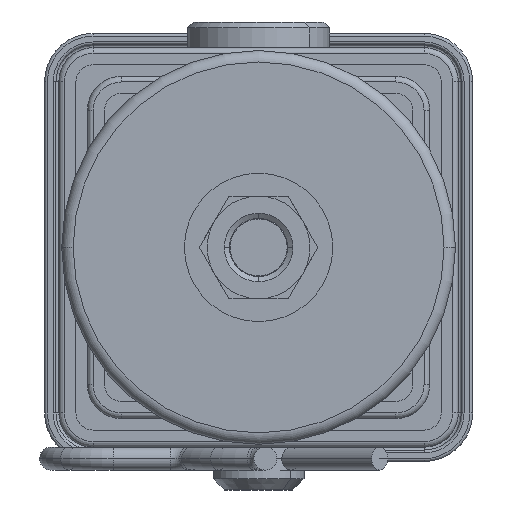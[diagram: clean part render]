
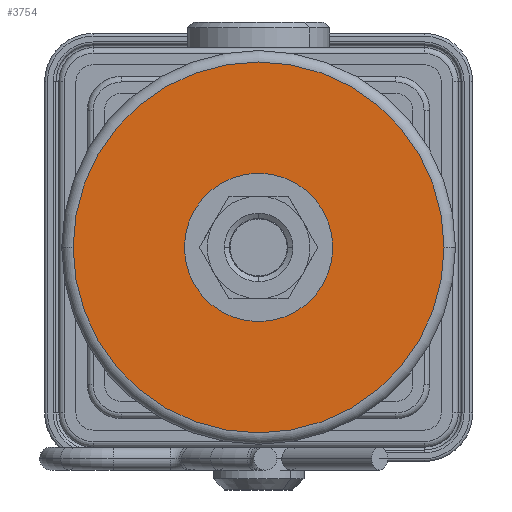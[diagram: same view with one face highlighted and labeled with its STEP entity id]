
A CAD part, front view. The second image highlights one B-rep face of the part: STEP entity #3754.
In plain terms, the highlighted planar face has unit normal (0, -1, 0).
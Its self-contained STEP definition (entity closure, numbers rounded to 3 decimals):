
#146 = FACE_OUTER_BOUND ( 'NONE', #1695, .T. ) ;
#199 = VERTEX_POINT ( 'NONE', #4738 ) ;
#485 = DIRECTION ( 'NONE',  ( 0., 0., -1. ) ) ;
#817 = DIRECTION ( 'NONE',  ( 0., 0., -1. ) ) ;
#890 = CIRCLE ( 'NONE', #7768, 32.5 ) ;
#1234 = FACE_BOUND ( 'NONE', #9202, .T. ) ;
#1695 = EDGE_LOOP ( 'NONE', ( #9395, #6928 ) ) ;
#1927 = CIRCLE ( 'NONE', #6339, 13. ) ;
#1995 = EDGE_CURVE ( 'NONE', #11370, #199, #1927, .T. ) ;
#2941 = DIRECTION ( 'NONE',  ( 0., -1., 0. ) ) ;
#3078 = EDGE_CURVE ( 'NONE', #5412, #3096, #7547, .T. ) ;
#3096 = VERTEX_POINT ( 'NONE', #9473 ) ;
#3754 = ADVANCED_FACE ( 'NONE', ( #146, #1234 ), #12746, .T. ) ;
#4604 = CARTESIAN_POINT ( 'NONE',  ( 0., -18., 0. ) ) ;
#4630 = DIRECTION ( 'NONE',  ( 0., -1., 0. ) ) ;
#4648 = EDGE_CURVE ( 'NONE', #199, #11370, #8433, .T. ) ;
#4738 = CARTESIAN_POINT ( 'NONE',  ( 0., -18., 13. ) ) ;
#4767 = CARTESIAN_POINT ( 'NONE',  ( 0., -18., -32.5 ) ) ;
#5412 = VERTEX_POINT ( 'NONE', #4767 ) ;
#5610 = DIRECTION ( 'NONE',  ( 0., 0., -1. ) ) ;
#6339 = AXIS2_PLACEMENT_3D ( 'NONE', #10643, #4630, #11631 ) ;
#6515 = DIRECTION ( 'NONE',  ( 0., -1., 0. ) ) ;
#6766 = EDGE_CURVE ( 'NONE', #3096, #5412, #890, .T. ) ;
#6838 = DIRECTION ( 'NONE',  ( 0., -1., 0. ) ) ;
#6928 = ORIENTED_EDGE ( 'NONE', *, *, #6766, .T. ) ;
#7289 = AXIS2_PLACEMENT_3D ( 'NONE', #10803, #6838, #817 ) ;
#7547 = CIRCLE ( 'NONE', #8019, 32.5 ) ;
#7768 = AXIS2_PLACEMENT_3D ( 'NONE', #8935, #2941, #9947 ) ;
#7869 = AXIS2_PLACEMENT_3D ( 'NONE', #4604, #11588, #5610 ) ;
#8019 = AXIS2_PLACEMENT_3D ( 'NONE', #12464, #6515, #485 ) ;
#8433 = CIRCLE ( 'NONE', #7869, 13. ) ;
#8935 = CARTESIAN_POINT ( 'NONE',  ( 0., -18., 0. ) ) ;
#9202 = EDGE_LOOP ( 'NONE', ( #9536, #9788 ) ) ;
#9395 = ORIENTED_EDGE ( 'NONE', *, *, #3078, .T. ) ;
#9473 = CARTESIAN_POINT ( 'NONE',  ( 0., -18., 32.5 ) ) ;
#9536 = ORIENTED_EDGE ( 'NONE', *, *, #1995, .F. ) ;
#9788 = ORIENTED_EDGE ( 'NONE', *, *, #4648, .F. ) ;
#9947 = DIRECTION ( 'NONE',  ( 0., 0., -1. ) ) ;
#10643 = CARTESIAN_POINT ( 'NONE',  ( 0., -18., 0. ) ) ;
#10803 = CARTESIAN_POINT ( 'NONE',  ( 34.5, -18., 0. ) ) ;
#11162 = CARTESIAN_POINT ( 'NONE',  ( 0., -18., -13. ) ) ;
#11370 = VERTEX_POINT ( 'NONE', #11162 ) ;
#11588 = DIRECTION ( 'NONE',  ( 0., -1., 0. ) ) ;
#11631 = DIRECTION ( 'NONE',  ( 0., 0., -1. ) ) ;
#12464 = CARTESIAN_POINT ( 'NONE',  ( 0., -18., 0. ) ) ;
#12746 = PLANE ( 'NONE',  #7289 ) ;
